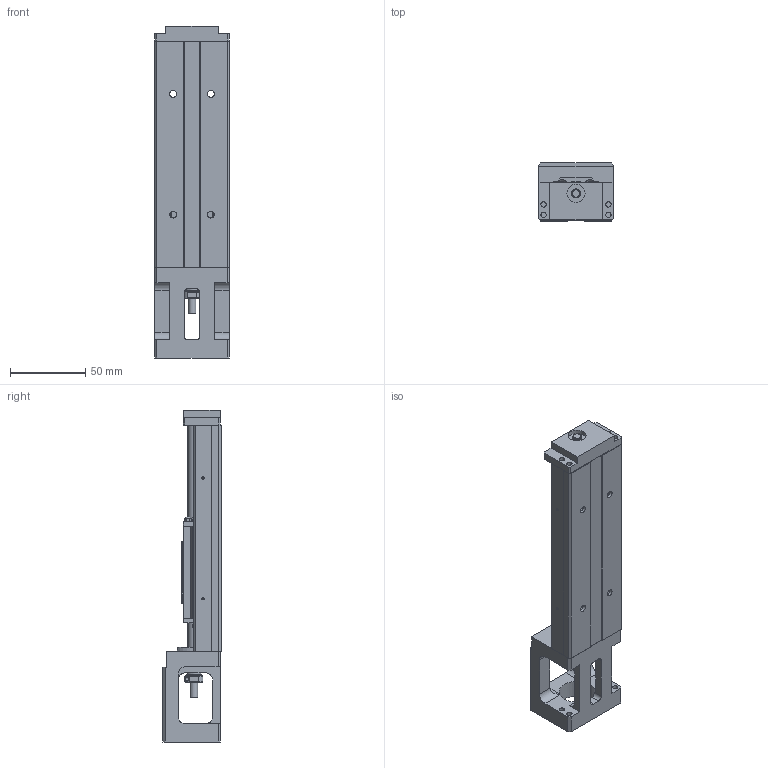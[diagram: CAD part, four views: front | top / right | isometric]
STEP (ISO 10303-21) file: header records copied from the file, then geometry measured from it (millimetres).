
FILE_DESCRIPTION(/* description */ (''),/* implementation_level */ '2;1');
FILE_NAME(/* name */ '26-150low.stp',/* time_stamp */ '2018-02-12T09:09:48+08:00',/* author */ (''),/* organization */ (''),/* preprocessor_version */ 'ST-DEVELOPER v11',/* originating_system */ 'SIEMENS UGS NX 6.0',/* authorisation */ '');
FILE_SCHEMA (('AUTOMOTIVE_DESIGN { 1 0 10303 214 1 1 1 1 }'));
Length unit declared in the file: millimetre
Products named in the file (1): 3.069
Bounding box: 50 x 38.5 x 220 mm (x, y, z)
Volume: 178342.1 mm3; surface area: 63570.5 mm2
Topology: 5 solids, 10 shells, 614 faces, 1598 edges, 1032 vertices
Faces by surface type: plane 335, cylinder 193, cone 57, bspline 20, extrusion 4, torus 4, sphere 1
Full cylindrical faces by diameter (mm): 1.6 x4, 2.42 x4, 2.5 x5, 2.8 x6, 3.2 x4, 3.3 x2, 3.5 x6, 4 x4, 4.5 x4, 5 x7, 5.7 x1, 6 x10, 8 x5, 9 x2, 10 x1, 12 x2, 16.9 x1
Entity records: 28453 total; most frequent: CARTESIAN_POINT 9745, DIRECTION 2901, ORIENTED_EDGE 2874, EDGE_CURVE 1437, AXIS2_PLACEMENT_3D 1021, VERTEX_POINT 991, VECTOR 859, LINE 855
